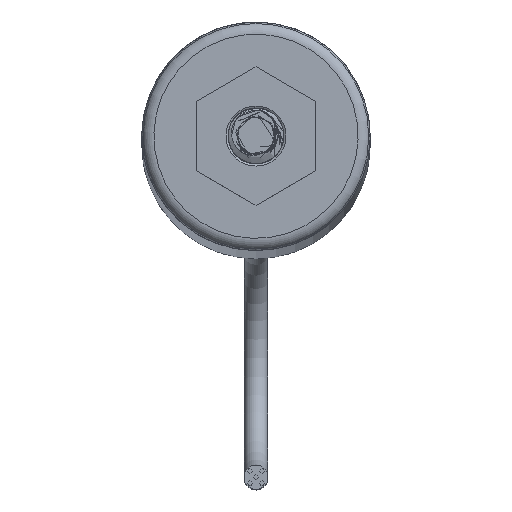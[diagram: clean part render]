
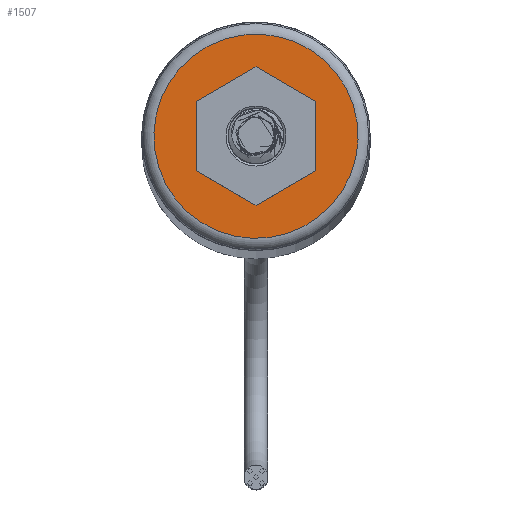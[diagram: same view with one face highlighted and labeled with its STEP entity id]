
A CAD part, top view. The second image highlights one B-rep face of the part: STEP entity #1507.
In plain terms, the highlighted planar face has unit normal (0, 0, 1).
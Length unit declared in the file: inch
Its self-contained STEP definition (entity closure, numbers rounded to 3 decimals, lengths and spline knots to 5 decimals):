
#70=FACE_BOUND('',#259,.T.);
#92=PLANE('',#1781);
#154=FACE_OUTER_BOUND('',#258,.T.);
#258=EDGE_LOOP('',(#1020));
#259=EDGE_LOOP('',(#1021));
#497=CIRCLE('',#1776,0.1675);
#501=CIRCLE('',#1782,0.0625);
#636=VERTEX_POINT('',#2606);
#639=VERTEX_POINT('',#2616);
#779=EDGE_CURVE('',#636,#636,#497,.T.);
#784=EDGE_CURVE('',#639,#639,#501,.T.);
#1020=ORIENTED_EDGE('',*,*,#779,.F.);
#1021=ORIENTED_EDGE('',*,*,#784,.T.);
#1507=ADVANCED_FACE('',(#154,#70),#92,.T.);
#1776=AXIS2_PLACEMENT_3D('',#2607,#2053,#2054);
#1781=AXIS2_PLACEMENT_3D('',#2615,#2064,#2065);
#1782=AXIS2_PLACEMENT_3D('',#2617,#2066,#2067);
#2053=DIRECTION('center_axis',(0.,0.,
-1.));
#2054=DIRECTION('ref_axis',(-0.788,-0.615,0.));
#2064=DIRECTION('center_axis',(0.,0.,
1.));
#2065=DIRECTION('ref_axis',(0.788,0.615,0.));
#2066=DIRECTION('center_axis',(0.,0.,
-1.));
#2067=DIRECTION('ref_axis',(0.788,0.615,0.));
#2606=CARTESIAN_POINT('',(-0.13203,-0.10308,0.029));
#2607=CARTESIAN_POINT('Origin',(0.,0.,
0.029));
#2615=CARTESIAN_POINT('Origin',(0.,0.,
0.029));
#2616=CARTESIAN_POINT('',(-0.04926,-0.03846,0.029));
#2617=CARTESIAN_POINT('Origin',(0.,0.,
0.029));
